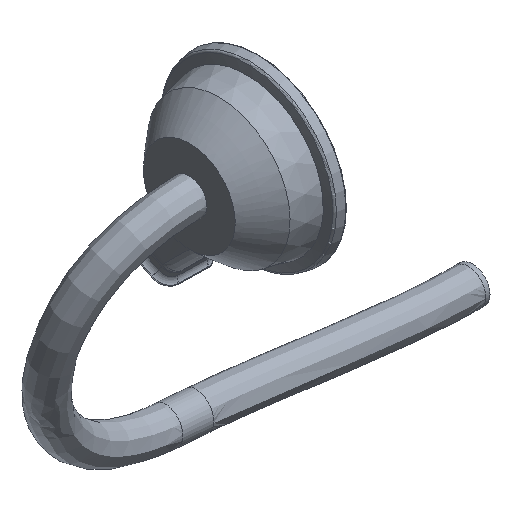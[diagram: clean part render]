
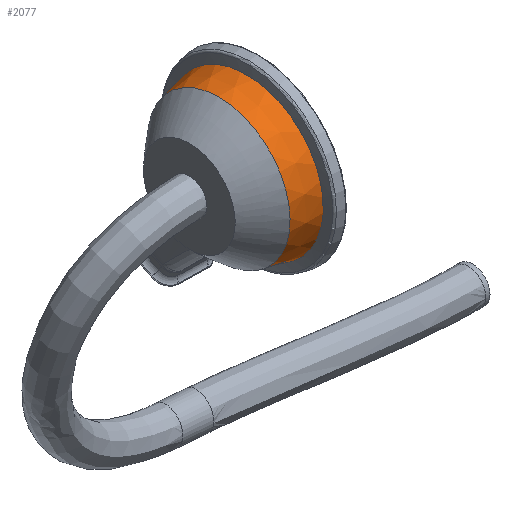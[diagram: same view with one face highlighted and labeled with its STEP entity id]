
A CAD part, isometric view. The second image highlights one B-rep face of the part: STEP entity #2077.
In plain terms, the highlighted conical face has half-angle 12 degrees and reference radius 108.449 mm.
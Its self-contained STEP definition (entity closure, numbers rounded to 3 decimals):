
#194 = CARTESIAN_POINT ( 'NONE',  ( 50.147, 0., 2205. ) ) ;
#303 = B_SPLINE_CURVE_WITH_KNOTS ( 'NONE', 3,
 ( #402, #4317, #375, #1176 ),
 .UNSPECIFIED., .F., .F.,
 ( 4, 4 ),
 ( 0., 1. ),
 .UNSPECIFIED. ) ;
#375 = CARTESIAN_POINT ( 'NONE',  ( 25.682, 15.954, 2102.978 ) ) ;
#402 = CARTESIAN_POINT ( 'NONE',  ( 52.24, 20.267, 2098.009 ) ) ;
#503 = ORIENTED_EDGE ( 'NONE', *, *, #3272, .T. ) ;
#516 = CARTESIAN_POINT ( 'NONE',  ( 13.5, 13.924, 2105.309 ) ) ;
#1070 = CARTESIAN_POINT ( 'NONE',  ( 13.5, 79.373, 2143.096 ) ) ;
#1082 = CONICAL_SURFACE ( 'NONE', #3738, 108.449, 0.209 ) ;
#1119 = ORIENTED_EDGE ( 'NONE', *, *, #2001, .T. ) ;
#1125 = VERTEX_POINT ( 'NONE', #1190 ) ;
#1176 = CARTESIAN_POINT ( 'NONE',  ( 13.5, 13.924, 2105.309 ) ) ;
#1190 = CARTESIAN_POINT ( 'NONE',  ( 52.24, 82.523, 2133.953 ) ) ;
#1542 = DIRECTION ( 'NONE',  ( 0., 1., 0. ) ) ;
#1544 = CIRCLE ( 'NONE', #3373, 100.659 ) ;
#1671 = DIRECTION ( 'NONE',  ( -1., 0., 0. ) ) ;
#1744 = CARTESIAN_POINT ( 'NONE',  ( 52.24, 20.267, 2098.009 ) ) ;
#1775 = DIRECTION ( 'NONE',  ( 0., 1., 0. ) ) ;
#2001 = EDGE_CURVE ( 'NONE', #4777, #1125, #4768, .T. ) ;
#2077 = ADVANCED_FACE ( 'NONE', ( #4625 ), #1082, .T. ) ;
#2323 = CARTESIAN_POINT ( 'NONE',  ( 38.661, 81.432, 2137.11 ) ) ;
#2629 = VERTEX_POINT ( 'NONE', #516 ) ;
#2638 = CARTESIAN_POINT ( 'NONE',  ( 13.5, 79.373, 2143.096 ) ) ;
#2701 = DIRECTION ( 'NONE',  ( 1., 0., 0. ) ) ;
#2731 = AXIS2_PLACEMENT_3D ( 'NONE', #5610, #1671, #3413 ) ;
#2780 = VERTEX_POINT ( 'NONE', #1070 ) ;
#2947 = EDGE_CURVE ( 'NONE', #2780, #2629, #1544, .T. ) ;
#3260 = B_SPLINE_CURVE_WITH_KNOTS ( 'NONE', 3,
 ( #5374, #2323, #4015, #2638 ),
 .UNSPECIFIED., .F., .F.,
 ( 4, 4 ),
 ( 0., 1. ),
 .UNSPECIFIED. ) ;
#3272 = EDGE_CURVE ( 'NONE', #1125, #2780, #3260, .T. ) ;
#3373 = AXIS2_PLACEMENT_3D ( 'NONE', #4076, #2701, #1775 ) ;
#3413 = DIRECTION ( 'NONE',  ( 0., -1., 0. ) ) ;
#3638 = ORIENTED_EDGE ( 'NONE', *, *, #2947, .T. ) ;
#3738 = AXIS2_PLACEMENT_3D ( 'NONE', #194, #3749, #1542 ) ;
#3749 = DIRECTION ( 'NONE',  ( 1., 0., 0. ) ) ;
#3765 = EDGE_LOOP ( 'NONE', ( #503, #3638, #5547, #1119 ) ) ;
#4015 = CARTESIAN_POINT ( 'NONE',  ( 25.747, 80.382, 2140.157 ) ) ;
#4076 = CARTESIAN_POINT ( 'NONE',  ( 13.5, 0., 2205. ) ) ;
#4317 = CARTESIAN_POINT ( 'NONE',  ( 38.595, 18.068, 2100.545 ) ) ;
#4458 = EDGE_CURVE ( 'NONE', #4777, #2629, #303, .T. ) ;
#4625 = FACE_OUTER_BOUND ( 'NONE', #3765, .T. ) ;
#4768 = CIRCLE ( 'NONE', #2731, 108.893 ) ;
#4777 = VERTEX_POINT ( 'NONE', #1744 ) ;
#5374 = CARTESIAN_POINT ( 'NONE',  ( 52.24, 82.523, 2133.953 ) ) ;
#5547 = ORIENTED_EDGE ( 'NONE', *, *, #4458, .F. ) ;
#5610 = CARTESIAN_POINT ( 'NONE',  ( 52.24, 0., 2205. ) ) ;
